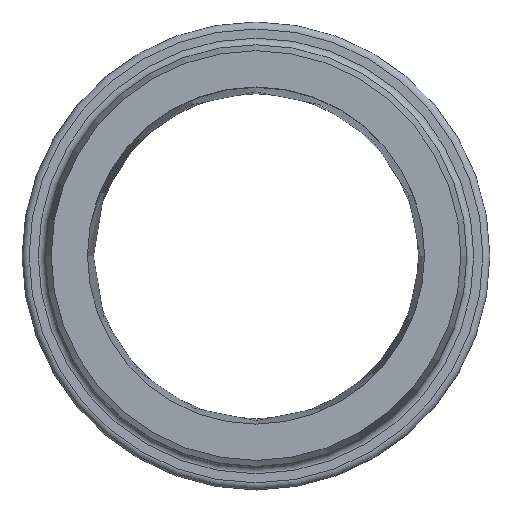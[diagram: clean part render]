
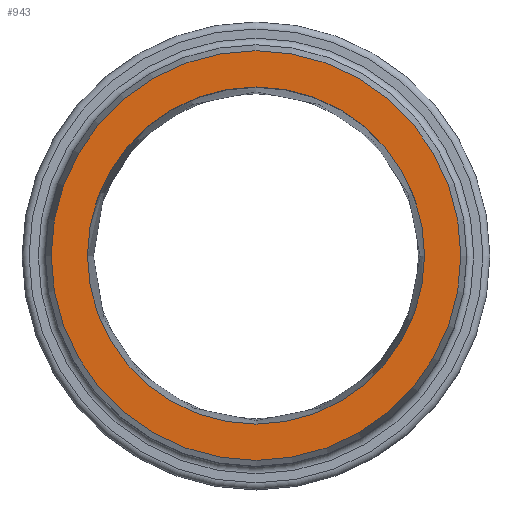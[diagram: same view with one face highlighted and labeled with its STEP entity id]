
A CAD part, top view. The second image highlights one B-rep face of the part: STEP entity #943.
In plain terms, the highlighted planar face has unit normal (0, 0, 1).
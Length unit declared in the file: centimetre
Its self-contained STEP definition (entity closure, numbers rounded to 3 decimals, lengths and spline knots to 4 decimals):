
#176=PLANE('',#487);
#301=VERTEX_POINT('',#39080);
#302=VERTEX_POINT('',#39083);
#425=DIRECTION('',(0.,0.,1.));
#426=DIRECTION('',(0.,4.448,0.));
#427=DIRECTION('',(0.,0.,1.));
#428=DIRECTION('',(0.,0.,1.));
#429=DIRECTION('',(0.,3.66,0.));
#486=AXIS2_PLACEMENT_3D('',#39079,#425,#426);
#487=AXIS2_PLACEMENT_3D('',#39081,#427,$);
#488=AXIS2_PLACEMENT_3D('',#39082,#428,#429);
#508=CIRCLE('',#486,4.4478);
#509=CIRCLE('',#488,3.6601);
#601=EDGE_CURVE('',#301,#301,#508,.T.);
#602=EDGE_CURVE('',#302,#302,#509,.T.);
#785=ORIENTED_EDGE('',*,*,#602,.F.);
#786=ORIENTED_EDGE('',*,*,#601,.T.);
#842=EDGE_LOOP('',(#785));
#843=EDGE_LOOP('',(#786));
#899=FACE_BOUND('',#842,.T.);
#900=FACE_BOUND('',#843,.T.);
#943=ADVANCED_FACE('',(#899,#900),#176,.T.);
#39079=CARTESIAN_POINT('',(0.,0.,0.));
#39080=CARTESIAN_POINT('',(0.,4.4478,0.));
#39081=CARTESIAN_POINT('',(0.,4.054,0.));
#39082=CARTESIAN_POINT('',(0.,0.,0.));
#39083=CARTESIAN_POINT('',(0.,3.6601,0.));
